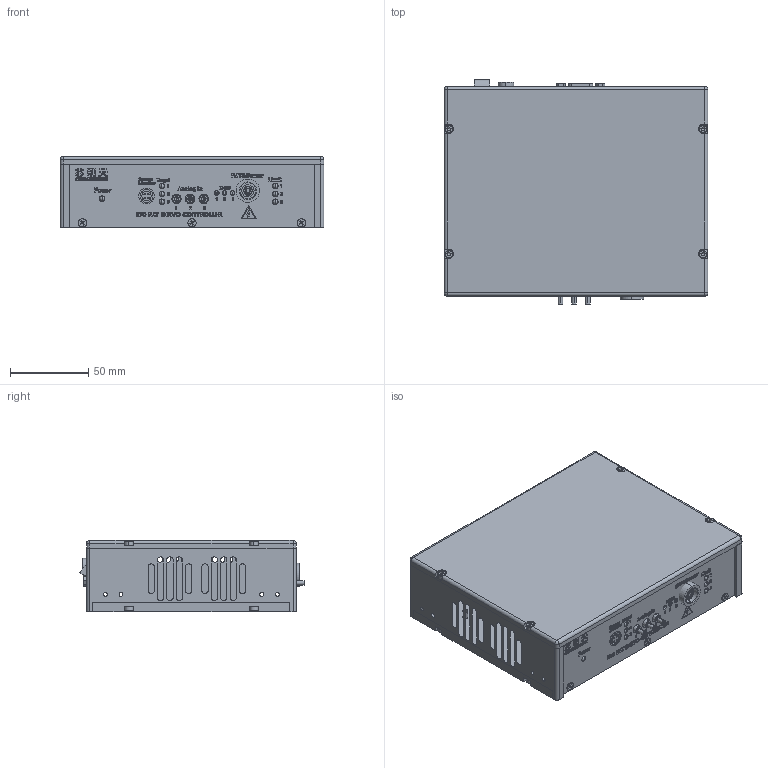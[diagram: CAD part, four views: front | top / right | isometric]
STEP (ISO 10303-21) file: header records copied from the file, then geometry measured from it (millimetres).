
FILE_DESCRIPTION (( 'STEP AP203' ), '1' );
FILE_NAME ('蚾饜极18.10.08.STEP', '2019-12-18T05:48:10', ( 'User' ), ( 'china' ), 'SwSTEP 2.0', 'SolidWorks 2016', '' );
FILE_SCHEMA (( 'CONFIG_CONTROL_DESIGN' ));
Products named in the file (1): 蚾饜极18.10.08
Bounding box: 168.5 x 143.19 x 45.5 mm (x, y, z)
Surface area: 99014 mm2 (no closed solid volume)
Topology: 0 solids, 83 shells, 1251 faces, 6207 edges, 4849 vertices
Faces by surface type: plane 745, cylinder 234, bspline 208, cone 30, sphere 18, torus 16
Entity records: 86795 total; most frequent: CARTESIAN_POINT 42332, ORIENTED_EDGE 8364, DIRECTION 7424, EDGE_CURVE 6159, VERTEX_POINT 4835, VECTOR 3846, LINE 3846, AXIS2_PLACEMENT_3D 1789
